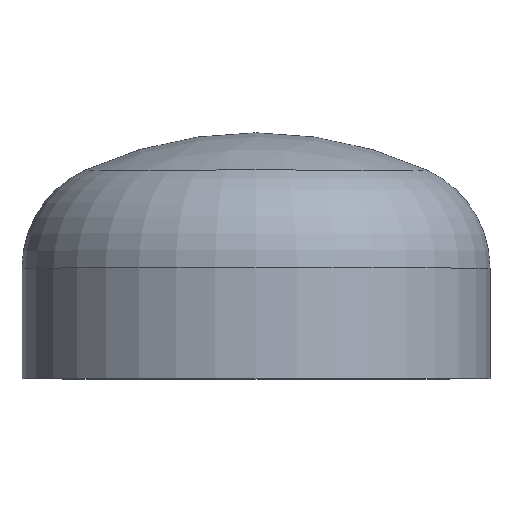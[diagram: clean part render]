
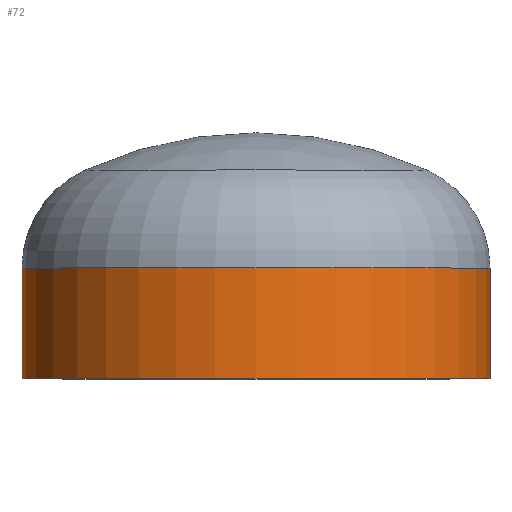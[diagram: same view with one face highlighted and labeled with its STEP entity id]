
A CAD part, top view. The second image highlights one B-rep face of the part: STEP entity #72.
In plain terms, the highlighted cylindrical face has radius 254 mm (diameter 508 mm), a partial arc.
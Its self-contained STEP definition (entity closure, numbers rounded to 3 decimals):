
#2 = ORIENTED_EDGE ( 'NONE', *, *, #353, .F. ) ;
#9 = CARTESIAN_POINT ( 'NONE',  ( 254., 0., 0. ) ) ;
#11 = ORIENTED_EDGE ( 'NONE', *, *, #356, .T. ) ;
#17 = DIRECTION ( 'NONE',  ( 0., -1., 0. ) ) ;
#30 = CARTESIAN_POINT ( 'NONE',  ( 254., 0., 0. ) ) ;
#72 = ADVANCED_FACE ( 'NONE', ( #111 ), #251, .T. ) ;
#75 = AXIS2_PLACEMENT_3D ( 'NONE', #345, #344, #347 ) ;
#79 = ORIENTED_EDGE ( 'NONE', *, *, #373, .F. ) ;
#80 = AXIS2_PLACEMENT_3D ( 'NONE', #257, #241, #237 ) ;
#81 = VERTEX_POINT ( 'NONE', #235 ) ;
#99 = EDGE_CURVE ( 'NONE', #103, #131, #194, .T. ) ;
#103 = VERTEX_POINT ( 'NONE', #311 ) ;
#111 = FACE_OUTER_BOUND ( 'NONE', #120, .T. ) ;
#120 = EDGE_LOOP ( 'NONE', ( #124, #11, #2, #79 ) ) ;
#124 = ORIENTED_EDGE ( 'NONE', *, *, #99, .T. ) ;
#125 = VERTEX_POINT ( 'NONE', #30 ) ;
#131 = VERTEX_POINT ( 'NONE', #285 ) ;
#137 = DIRECTION ( 'NONE',  ( 1., 0., 0. ) ) ;
#154 = CARTESIAN_POINT ( 'NONE',  ( 0., 0., 0. ) ) ;
#192 = VECTOR ( 'NONE', #268, 1000. ) ;
#194 = CIRCLE ( 'NONE', #75, 254. ) ;
#198 = CIRCLE ( 'NONE', #346, 254. ) ;
#235 = CARTESIAN_POINT ( 'NONE',  ( -254., 0., 0. ) ) ;
#237 = DIRECTION ( 'NONE',  ( 1., 0., 0. ) ) ;
#241 = DIRECTION ( 'NONE',  ( 0., -1., 0. ) ) ;
#245 = VECTOR ( 'NONE', #17, 1000. ) ;
#251 = CYLINDRICAL_SURFACE ( 'NONE', #80, 254. ) ;
#257 = CARTESIAN_POINT ( 'NONE',  ( 0., 0., 0. ) ) ;
#262 = LINE ( 'NONE', #320, #192 ) ;
#268 = DIRECTION ( 'NONE',  ( 0., -1., 0. ) ) ;
#285 = CARTESIAN_POINT ( 'NONE',  ( -254., 120., 0. ) ) ;
#301 = LINE ( 'NONE', #9, #245 ) ;
#311 = CARTESIAN_POINT ( 'NONE',  ( 254., 120., 0. ) ) ;
#320 = CARTESIAN_POINT ( 'NONE',  ( -254., 0., 0. ) ) ;
#329 = DIRECTION ( 'NONE',  ( 0., -1., 0. ) ) ;
#344 = DIRECTION ( 'NONE',  ( 0., -1., 0. ) ) ;
#345 = CARTESIAN_POINT ( 'NONE',  ( 0., 120., 0. ) ) ;
#346 = AXIS2_PLACEMENT_3D ( 'NONE', #154, #329, #137 ) ;
#347 = DIRECTION ( 'NONE',  ( 1., 0., 0. ) ) ;
#353 = EDGE_CURVE ( 'NONE', #125, #81, #198, .T. ) ;
#356 = EDGE_CURVE ( 'NONE', #131, #81, #262, .T. ) ;
#373 = EDGE_CURVE ( 'NONE', #103, #125, #301, .T. ) ;
